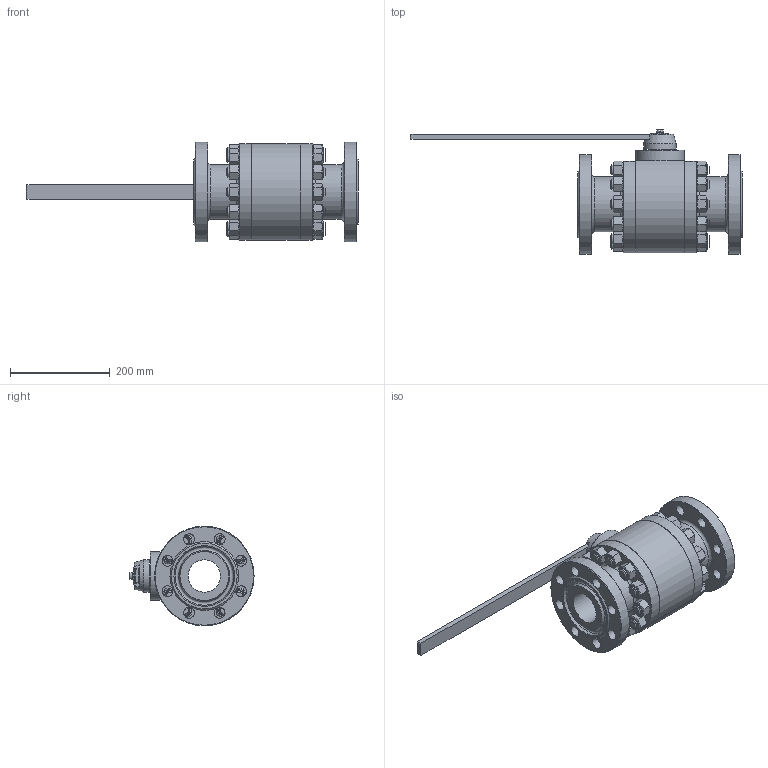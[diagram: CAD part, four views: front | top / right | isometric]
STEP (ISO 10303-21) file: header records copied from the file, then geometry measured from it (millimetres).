
FILE_DESCRIPTION(('STEP AP203'), '1');
FILE_NAME('ZARDP 065.063.27.P.stp', '2014-01-24T11:19:42', ('1'), ('1'), 'ASCON STEP Converter 1.3', 'Kompas 3D', '');
FILE_SCHEMA(('CONFIG_CONTROL_DESIGN','SUPPORT_RESOURCE_SCHEMA'));
Length unit declared in the file: millimetre
Products named in the file (1): 1
Bounding box: 667 x 249.5 x 200 mm (x, y, z)
Surface area: 663753.4 mm2 (no closed solid volume)
Topology: 0 solids, 52 shells, 871 faces, 1987 edges, 1246 vertices
Faces by surface type: plane 444, cone 234, cylinder 187, torus 6
Full cylindrical faces by diameter (mm): 8 x3, 8.5 x1, 10 x6, 10.106 x6, 12 x6, 13 x7, 17.294 x22, 18 x6, 20 x50, 22 x38, 28.7 x1, 29.8 x1, 30 x1, 31 x1, 36 x1, 40 x1, 40.5 x1, 65 x3, 98 x1, 110 x2, 120 x1, 200 x2
Entity records: 36391 total; most frequent: CARTESIAN_POINT 16926, DIRECTION 4123, ORIENTED_EDGE 3870, EDGE_CURVE 1935, AXIS2_PLACEMENT_3D 1664, VERTEX_POINT 1244, EDGE_LOOP 1049, ADVANCED_FACE 871
